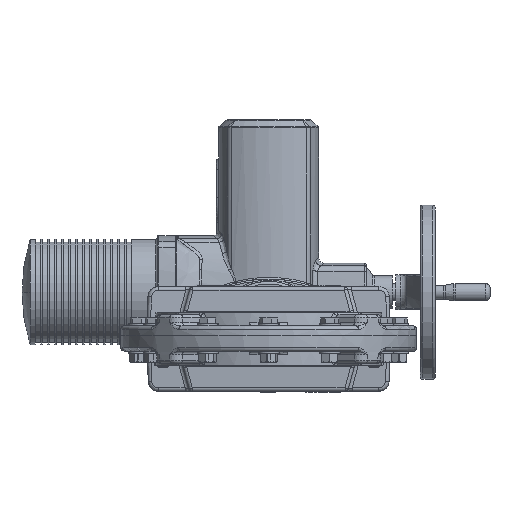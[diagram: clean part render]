
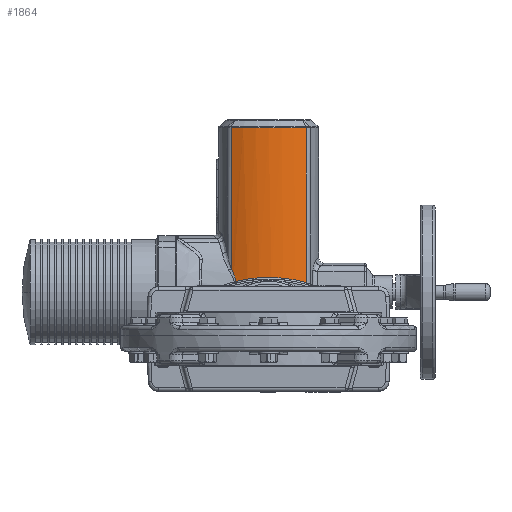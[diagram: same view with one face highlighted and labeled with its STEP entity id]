
A CAD part, front view. The second image highlights one B-rep face of the part: STEP entity #1864.
In plain terms, the highlighted cylindrical face has radius 100 mm (diameter 200 mm), a partial arc.
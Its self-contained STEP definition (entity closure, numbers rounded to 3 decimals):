
#913 = CIRCLE ( 'NONE', #151611, 100. ) ;
#1864 = ADVANCED_FACE ( 'NONE', ( #51399 ), #133702, .T. ) ;
#4090 = CARTESIAN_POINT ( 'NONE',  ( -34.072, 615.921, 63.013 ) ) ;
#4568 = ORIENTED_EDGE ( 'NONE', *, *, #107563, .T. ) ;
#4627 = CARTESIAN_POINT ( 'NONE',  ( 6.69, 610.164, 66.645 ) ) ;
#7789 = EDGE_LOOP ( 'NONE', ( #157388, #129632, #98929, #47198, #4568 ) ) ;
#11865 = EDGE_CURVE ( 'NONE', #110749, #17957, #913, .T. ) ;
#16363 = CARTESIAN_POINT ( 'NONE',  ( -30.843, 614.814, 63.702 ) ) ;
#16566 = DIRECTION ( 'NONE',  ( 0., 0., -1. ) ) ;
#16876 = CARTESIAN_POINT ( 'NONE',  ( 15.279, 611.159, 66.008 ) ) ;
#17957 = VERTEX_POINT ( 'NONE', #72731 ) ;
#22209 = CARTESIAN_POINT ( 'NONE',  ( 43.041, 619.737, 238.426 ) ) ;
#22650 = CARTESIAN_POINT ( 'NONE',  ( -43.041, 619.737, 76.501 ) ) ;
#23468 = DIRECTION ( 'NONE',  ( 0., 0., -1. ) ) ;
#26411 = EDGE_CURVE ( 'NONE', #96485, #102865, #132302, .T. ) ;
#28666 = CARTESIAN_POINT ( 'NONE',  ( -20.937, 612.156, 65.374 ) ) ;
#29194 = CARTESIAN_POINT ( 'NONE',  ( 19.552, 611.926, 65.52 ) ) ;
#34977 = CARTESIAN_POINT ( 'NONE',  ( -37.946, 617.476, 64.739 ) ) ;
#41020 = CARTESIAN_POINT ( 'NONE',  ( -14.131, 610.988, 66.117 ) ) ;
#41555 = CARTESIAN_POINT ( 'NONE',  ( 22.103, 612.47, 65.176 ) ) ;
#47198 = ORIENTED_EDGE ( 'NONE', *, *, #11865, .T. ) ;
#47821 = VECTOR ( 'NONE', #83733, 1000. ) ;
#51399 = FACE_OUTER_BOUND ( 'NONE', #7789, .T. ) ;
#53323 = CARTESIAN_POINT ( 'NONE',  ( -10.673, 610.567, 66.386 ) ) ;
#53860 = CARTESIAN_POINT ( 'NONE',  ( 27.143, 613.692, 64.404 ) ) ;
#59149 = CARTESIAN_POINT ( 'NONE',  ( -40.772, 618.683, 71.911 ) ) ;
#61110 = LINE ( 'NONE', #84579, #89805 ) ;
#63350 = CARTESIAN_POINT ( 'NONE',  ( 0., 710., 247.75 ) ) ;
#65686 = CARTESIAN_POINT ( 'NONE',  ( -8.057, 610.321, 66.544 ) ) ;
#66190 = CARTESIAN_POINT ( 'NONE',  ( 43.041, 619.737, 60.688 ) ) ;
#66214 = CARTESIAN_POINT ( 'NONE',  ( 36.839, 616.97, 62.368 ) ) ;
#72731 = CARTESIAN_POINT ( 'NONE',  ( -43.041, 619.737, 238.426 ) ) ;
#76214 = DIRECTION ( 'NONE',  ( -1., 0., 0. ) ) ;
#77479 = CARTESIAN_POINT ( 'NONE',  ( -37.247, 617.196, 62.232 ) ) ;
#78012 = CARTESIAN_POINT ( 'NONE',  ( -0.227, 609.94, 66.788 ) ) ;
#78533 = CARTESIAN_POINT ( 'NONE',  ( 43.041, 619.737, 60.688 ) ) ;
#78769 = EDGE_CURVE ( 'NONE', #110749, #145176, #61110, .T. ) ;
#83733 = DIRECTION ( 'NONE',  ( 0., 0., -1. ) ) ;
#83761 = CARTESIAN_POINT ( 'NONE',  ( -41.868, 619.177, 74.227 ) ) ;
#84579 = CARTESIAN_POINT ( 'NONE',  ( 43.041, 619.737, 247.75 ) ) ;
#89805 = VECTOR ( 'NONE', #23468, 1000. ) ;
#89940 = CARTESIAN_POINT ( 'NONE',  ( 0., 710., 238.426 ) ) ;
#90249 = CARTESIAN_POINT ( 'NONE',  ( 10.134, 610.455, 66.458 ) ) ;
#95822 = EDGE_CURVE ( 'NONE', #102865, #145176, #136379, .T. ) ;
#96485 = VERTEX_POINT ( 'NONE', #130059 ) ;
#98929 = ORIENTED_EDGE ( 'NONE', *, *, #78769, .F. ) ;
#102016 = CARTESIAN_POINT ( 'NONE',  ( -24.276, 612.931, 64.883 ) ) ;
#102246 = DIRECTION ( 'NONE',  ( 1., 0., 0. ) ) ;
#102565 = CARTESIAN_POINT ( 'NONE',  ( 16.99, 611.439, 65.83 ) ) ;
#102865 = VERTEX_POINT ( 'NONE', #108565 ) ;
#107563 = EDGE_CURVE ( 'NONE', #17957, #96485, #112971, .T. ) ;
#108339 = CARTESIAN_POINT ( 'NONE',  ( -38.812, 617.833, 67.167 ) ) ;
#108565 = CARTESIAN_POINT ( 'NONE',  ( -37.247, 617.196, 62.232 ) ) ;
#110749 = VERTEX_POINT ( 'NONE', #22209 ) ;
#112971 = LINE ( 'NONE', #156943, #47821 ) ;
#114386 = CARTESIAN_POINT ( 'NONE',  ( -15.843, 611.248, 65.951 ) ) ;
#114916 = CARTESIAN_POINT ( 'NONE',  ( 20.406, 612.1, 65.41 ) ) ;
#117846 = AXIS2_PLACEMENT_3D ( 'NONE', #63350, #148947, #76214 ) ;
#120671 = CARTESIAN_POINT ( 'NONE',  ( -37.247, 617.196, 62.232 ) ) ;
#126673 = CARTESIAN_POINT ( 'NONE',  ( -11.541, 610.664, 66.324 ) ) ;
#127199 = CARTESIAN_POINT ( 'NONE',  ( 22.947, 612.665, 65.053 ) ) ;
#129632 = ORIENTED_EDGE ( 'NONE', *, *, #95822, .T. ) ;
#130059 = CARTESIAN_POINT ( 'NONE',  ( -43.041, 619.737, 76.501 ) ) ;
#132302 = B_SPLINE_CURVE_WITH_KNOTS ( 'NONE', 3,
 ( #22650, #83761, #59149, #108339, #34977, #120671 ),
 .UNSPECIFIED., .F., .F.,
 ( 4, 2, 4 ),
 ( 0., 0.008, 0.016 ),
 .UNSPECIFIED. ) ;
#133702 = CYLINDRICAL_SURFACE ( 'NONE', #117846, 100. ) ;
#136379 = B_SPLINE_CURVE_WITH_KNOTS ( 'NONE', 3,
 ( #77479, #4090, #16363, #102016, #28666, #114386, #41020, #126673, #53323, #138970, #65686, #151258, #78012, #4627, #90249, #16876, #102565, #29194, #114916, #41555, #127199, #53860, #139502, #66214, #151769, #78533 ),
 .UNSPECIFIED., .F., .F.,
 ( 4, 2, 2, 2, 2, 2, 2, 2, 2, 2, 2, 2, 4 ),
 ( 0., 0.01, 0.021, 0.026, 0.029, 0.031, 0.042, 0.052, 0.057, 0.06, 0.062, 0.073, 0.083 ),
 .UNSPECIFIED. ) ;
#138970 = CARTESIAN_POINT ( 'NONE',  ( -8.931, 610.396, 66.496 ) ) ;
#139502 = CARTESIAN_POINT ( 'NONE',  ( 30.423, 614.679, 63.785 ) ) ;
#145176 = VERTEX_POINT ( 'NONE', #66190 ) ;
#148947 = DIRECTION ( 'NONE',  ( 0., 0., -1. ) ) ;
#151258 = CARTESIAN_POINT ( 'NONE',  ( -3.699, 610.007, 66.745 ) ) ;
#151611 = AXIS2_PLACEMENT_3D ( 'NONE', #89940, #16566, #102246 ) ;
#151769 = CARTESIAN_POINT ( 'NONE',  ( 39.975, 618.275, 61.568 ) ) ;
#156943 = CARTESIAN_POINT ( 'NONE',  ( -43.041, 619.737, 247.75 ) ) ;
#157388 = ORIENTED_EDGE ( 'NONE', *, *, #26411, .T. ) ;
